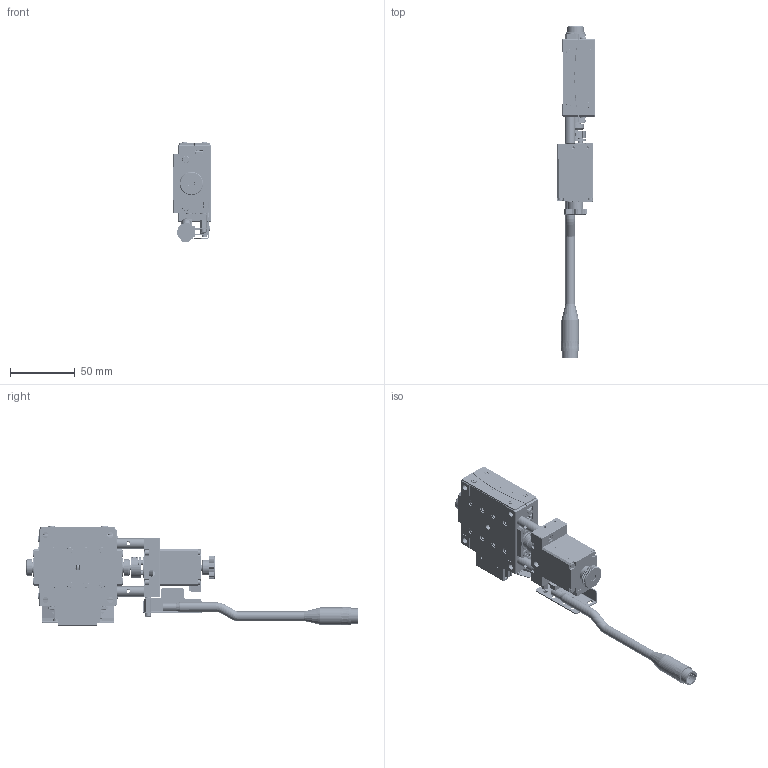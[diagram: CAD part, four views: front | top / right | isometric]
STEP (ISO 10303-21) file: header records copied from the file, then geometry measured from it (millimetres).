
FILE_DESCRIPTION (( 'STEP AP203' ), '1' );
FILE_NAME ('PT-GD06125-LC.STEP', '2026-03-30T08:24:28', ( '' ), ( '' ), 'SwSTEP 2.0', 'SolidWorks 2025', '' );
FILE_SCHEMA (( 'CONFIG_CONTROL_DESIGN' ));
Length unit declared in the file: millimetre
Products named in the file (50): ________________M3_M3__5________12.9___2.STEP_默认<按加工>; SL18-9.5-5_2.STEP_默认<按加工>; DGB-6075-06B_2.STEP_默认<按加工>; DGB-60125-04B.STEP_默认<按加工>; ______VR2-___________VR2x10Z-137.5.STEP_默认<按加工>; M2.5_______M2.5__5__0.3SUS304_____1.STEP_默认<按加工>; A-DGW60______L__PKP523N12B_1.STEP; ____1__0.75-D10_2.STEP_默认<按加工>; A-______________DGW60125-L____5__.STEP; ZCZ8-21_2.STEP_默认<按加工>; ________2.1__3.3__0.2-304_______2.1__3.3__0.2-304_______2.STEP_默认<按加工>; __________M2.5(__2.7__4.2__9.6)_________2.STEP_默认<按加工>; HGW6050-03A_2.STEP_默认<按加工>; DGW60100-03B_2.STEP_默认<按加工>; ________________M2_M2__4________12.9___2.STEP_默认<按加工>; DGW60125-01B.STEP_默认<按加工>; DGW60125-DL.STEP; CNT13-Z12Z-001-0.31M_2.STEP_默认<按加工>; HGW-60125-02A.STEP_默认<按加工>; CS-16__17-4__5_2.STEP_默认<按加工>; ________________M2.5_M2.5__10________12.9___2.STEP_默认<按加工>; PCBA-SHXL 2405 2.0_2.STEP_默认<按加工>; ________________M3_M3__7________12.9___2.STEP_默认<按加工>; DGW60100-02A_2.STEP_默认<按加工>; __________________M3_M3__3________12.9___2.STEP_默认<按加工>; PCBA-SA2-V1.0_1.STEP_默认<按加工>; __________M2.5_M2.5__10+4SUS304_2.STEP_默认<按加工>; ________________M2.5_M2.5__12________12.9___2.STEP_默认<按加工>; DGB-6075-08A_2.STEP_默认<按加工>; ________________M2.5_M2.5__6________12.9___2.STEP_默认<按加工>; __________________M2.5_M2.5__3________12.9___2.STEP_默认<按加工>; M5X0.5-13L5_2.STEP_默认<按加工>; DGB-60125-05B.STEP_默认<按加工>; HGW-60125-01A.STEP_默认<按加工>; ____360__0.75.STEP_默认<按加工>; PKP523N12B_________________10__10_2.STEP_默认<按加工>; 60-137.5.STEP_默认<按加工>; A-G60L_____________1.STEP; M2.5_______M2.5__5__0.5SUS304_____2.STEP_默认<按加工>; F695ZZ-____13____5__4______1-NSK_2.STEP_默认<按加工>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
Assembly tree (123 placements, depth 4):
  PT-GD06125-LC
    DGW60125-DL.STEP
      A-DGW60125-L__________.STEP
        HGW-60125-01A.STEP_默认<按加工>
        HGW-60125-02A.STEP_默认<按加工>
        __________________M3_M3__4________12.9___2.STEP_默认<按加工>  x4
        ________________M2.5_M2.5__10________12.9___2.STEP_默认<按加工>  x12
        ________________M2.5_M2.5__12________12.9___2.STEP_默认<按加工>  x4
        M2.5_______M2.5__5__0.5SUS304_____2.STEP_默认<按加工>  x8
        60-137.5.STEP_默认<按加工>  x4
        ____CM__________M2_M2__3-______5.0____1.2SUS304_____2.STEP_默认<按加工>  x8
        ____360__0.75.STEP_默认<按加工>
        ________________M2.5_M2.5__6________12.9___2.STEP_默认<按加工>  x4
        ______VR2-___________VR2x10Z-137.5.STEP_默认<按加工>  x2
        DGB-60125-04B.STEP_默认<按加工>
        DGB-60125-05B.STEP_默认<按加工>
        ____CM__________M2_M2__4-______4.0__0.71_________2.STEP_默认<按加工>  x4
      A-DGW60______L__PKP523N12B_1.STEP
        F695ZZ-____13____5__4______1-NSK_2.STEP_默认<按加工>  x2
        M5X0.5-13L5_2.STEP_默认<按加工>  x2
        HGW6050-03A_2.STEP_默认<按加工>  x2
        __________________M2.5_M2.5__3________12.9___2.STEP_默认<按加工>  x4
        ________________M3_M3__7________12.9___2.STEP_默认<按加工>  x4
        ____1__0.75-D10_2.STEP_默认<按加工>
        DGB-6075-15A-II_2.STEP_默认<按加工>
        ZCZ8-21_2.STEP_默认<按加工>  x2
        CS-16__17-4__5_2.STEP_默认<按加工>
        ________________M2.5_M2.5__12________12.9___2.STEP_默认<按加工>  x4
        ________________M3_M3__5________12.9___2.STEP_默认<按加工>  x2
        PKP523N12B_________________10__10_2.STEP_默认<按加工>
        SL18-9.5-5_2.STEP_默认<按加工>
        __________________M3_M3__3________12.9___2.STEP_默认<按加工>
        M2.5_______M2.5__5__0.5SUS304_____2.STEP_默认<按加工>  x4
        __________M2.5(__2.7__4.2__9.6)_________2.STEP_默认<按加工>
      A-G60L_____________1.STEP
        DGW60100-02A_2.STEP_默认<按加工>
        PCBA-SA2-V1.0_1.STEP_默认<按加工>
        ____CM__________M2_M2__4-______4.0__0.71_________2.STEP_默认<按加工>  x4
        ________2.1__3.3__0.2-304_______2.1__3.3__0.2-304_______2.STEP_默认<按加工>  x2
      A-______________DGW60125-L____5__.STEP
        DGB-6075-08A_2.STEP_默认<按加工>
        DGW60125-01B.STEP_默认<按加工>  x2
        DGW60100-03B_2.STEP_默认<按加工>
        ________________M2_M2__4________12.9___2.STEP_默认<按加工>  x3
        DGB-6075-06B_2.STEP_默认<按加工>
        ________________M2_M2__8________12.9___2.STEP_默认<按加工>  x2
        ____CM__________M2_M2__4-______4.0__0.71_________2.STEP_默认<按加工>  x2
      DGB-6075-LPD-NC______-L_1.STEP
        CNT13-Z12Z-001-0.31M_2.STEP_默认<按加工>
        DGB-6075-21B_2.STEP_默认<按加工>
        M2.5_______M2.5__5__0.3SUS304_____1.STEP_默认<按加工>  x2
        PCBA-SHXL 2405 2.0_2.STEP_默认<按加工>
        __________M2.5_M2.5__10+4SUS304_2.STEP_默认<按加工>  x2
        ________________M2.5_M2.5__5________12.9___1.STEP_默认<按加工>  x2
Bounding box: 29 x 256.12 x 76.51 mm (x, y, z)
Volume: 141681.3 mm3; surface area: 93066.7 mm2
Topology: 143 solids, 162 shells, 5072 faces, 12812 edges, 8189 vertices
Faces by surface type: plane 2457, cylinder 1248, cone 572, bspline 475, torus 284, sphere 36
Entity records: 155300 total; most frequent: CARTESIAN_POINT 67670, ORIENTED_EDGE 17522, DIRECTION 15048, EDGE_CURVE 8763, VERTEX_POINT 5728, AXIS2_PLACEMENT_3D 5139, VECTOR 4770, LINE 4770
